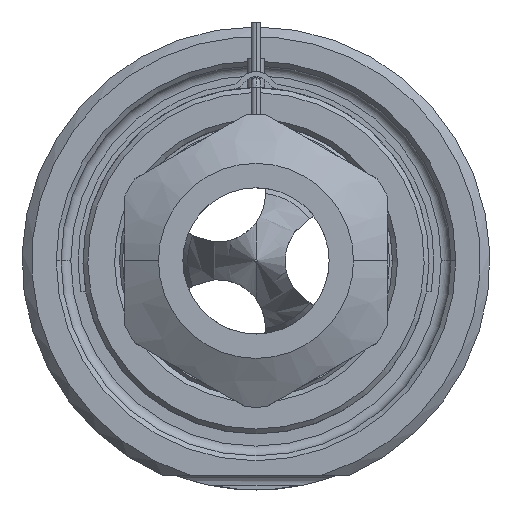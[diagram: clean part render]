
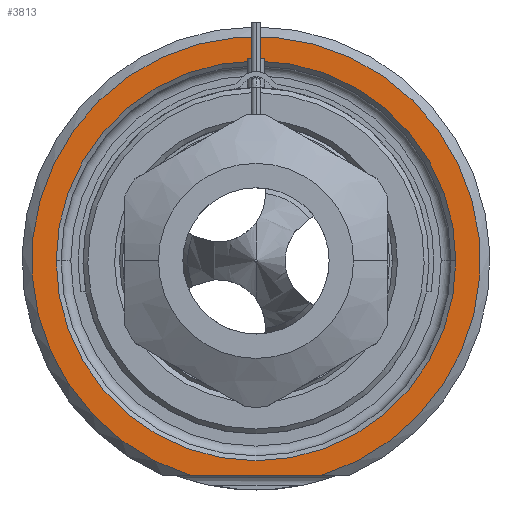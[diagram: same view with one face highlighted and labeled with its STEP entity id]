
A CAD part, front view. The second image highlights one B-rep face of the part: STEP entity #3813.
In plain terms, the highlighted planar face has unit normal (0, -1, 0).
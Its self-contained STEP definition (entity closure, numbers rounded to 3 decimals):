
#1=DIRECTION('',(1.,0.,0.));
#2=VECTOR('',#1,13.416);
#3=CARTESIAN_POINT('',(-6.708,0.,-22.));
#4=LINE('',#3,#2);
#5=CARTESIAN_POINT('',(0.,0.,0.));
#6=DIRECTION('',(0.,1.,0.));
#7=DIRECTION('',(-1.,0.,0.));
#8=AXIS2_PLACEMENT_3D('',#5,#6,#7);
#10=CARTESIAN_POINT('',(0.,0.,0.));
#11=DIRECTION('',(0.,1.,0.));
#12=DIRECTION('',(1.,0.,0.));
#13=AXIS2_PLACEMENT_3D('',#10,#11,#12);
#121=CARTESIAN_POINT('',(0.,0.,0.));
#122=DIRECTION('',(0.,-1.,0.));
#123=DIRECTION('',(0.292,0.,-0.957));
#124=AXIS2_PLACEMENT_3D('',#121,#122,#123);
#3198=CARTESIAN_POINT('',(-20.5,0.,0.));
#3199=CARTESIAN_POINT('',(20.5,0.,0.));
#3200=VERTEX_POINT('',#3198);
#3201=VERTEX_POINT('',#3199);
#3238=CARTESIAN_POINT('',(-6.708,0.,-22.));
#3239=CARTESIAN_POINT('',(6.708,0.,-22.));
#3240=VERTEX_POINT('',#3238);
#3241=VERTEX_POINT('',#3239);
#3796=CARTESIAN_POINT('',(0.,0.,0.));
#3797=DIRECTION('',(0.,-1.,0.));
#3798=DIRECTION('',(1.,0.,0.));
#3799=AXIS2_PLACEMENT_3D('',#3796,#3797,#3798);
#3800=PLANE('',#3799);
#3802=ORIENTED_EDGE('',*,*,#3801,.F.);
#3804=ORIENTED_EDGE('',*,*,#3803,.F.);
#3805=EDGE_LOOP('',(#3802,#3804));
#3806=FACE_OUTER_BOUND('',#3805,.F.);
#3808=ORIENTED_EDGE('',*,*,#3807,.F.);
#3810=ORIENTED_EDGE('',*,*,#3809,.F.);
#3811=EDGE_LOOP('',(#3808,#3810));
#3812=FACE_BOUND('',#3811,.F.);
#3813=ADVANCED_FACE('',(#3806,#3812),#3800,.T.);
#9=CIRCLE('',#8,20.5);
#14=CIRCLE('',#13,20.5);
#125=CIRCLE('',#124,23.);
#3801=EDGE_CURVE('',#3240,#3241,#4,.T.);
#3803=EDGE_CURVE('',#3241,#3240,#125,.T.);
#3807=EDGE_CURVE('',#3200,#3201,#9,.T.);
#3809=EDGE_CURVE('',#3201,#3200,#14,.T.);
